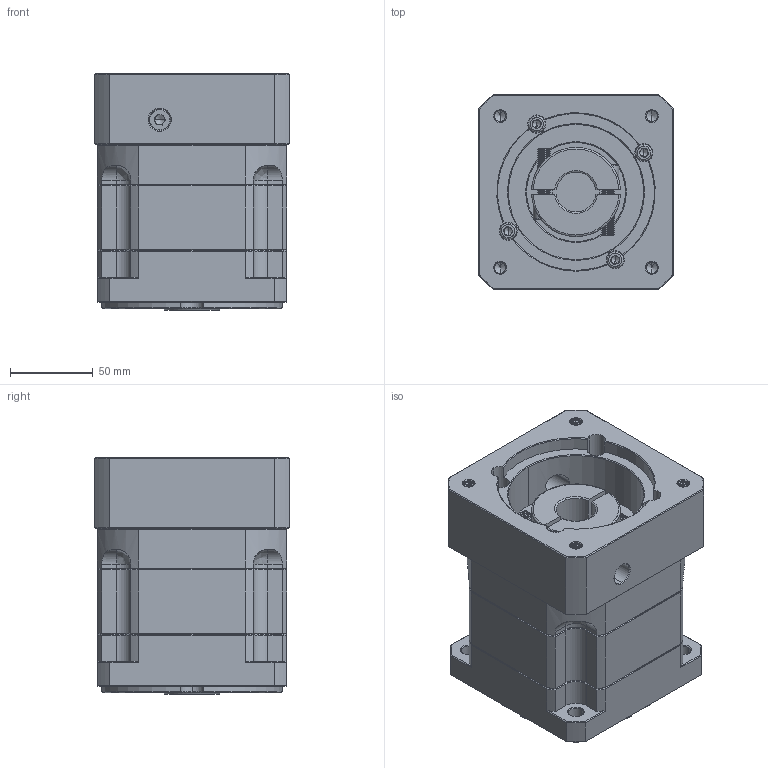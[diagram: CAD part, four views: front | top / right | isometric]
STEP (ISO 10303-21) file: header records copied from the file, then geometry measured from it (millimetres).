
FILE_DESCRIPTION (( 'STEP AP214' ), '1' );
FILE_NAME ('ZB115A-K25-L1-P2-24-95-130-M8.step', '2023-08-26T06:36:12', ( '' ), ( '' ), 'SwSTEP 2.0', 'SolidWorks 2016', '' );
FILE_SCHEMA (( 'AUTOMOTIVE_DESIGN' ));
Length unit declared in the file: millimetre
Products named in the file (1): ZB115A-K25-L1-P2-24-95-130-M8
Bounding box: 118 x 118 x 143.5 mm (x, y, z)
Volume: 1517800.9 mm3; surface area: 167245.4 mm2
Topology: 6 solids, 6 shells, 2346 faces, 6173 edges, 3923 vertices
Faces by surface type: plane 1137, bspline 414, cylinder 411, cone 364, torus 20
Entity records: 124183 total; most frequent: CARTESIAN_POINT 43821, ORIENTED_EDGE 12282, DIRECTION 9771, EDGE_CURVE 6141, VECTOR 3951, LINE 3951, VERTEX_POINT 3923, AXIS2_PLACEMENT_3D 2910
